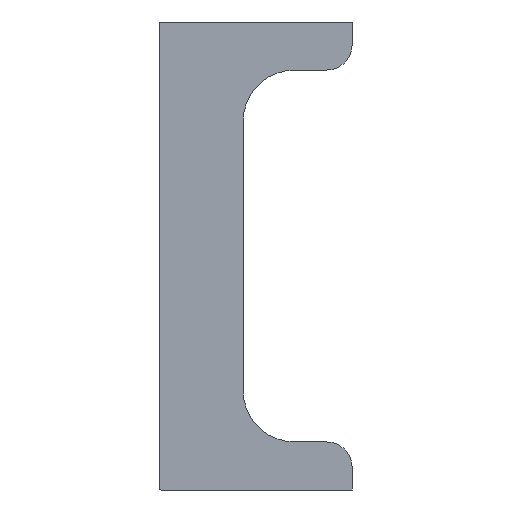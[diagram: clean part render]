
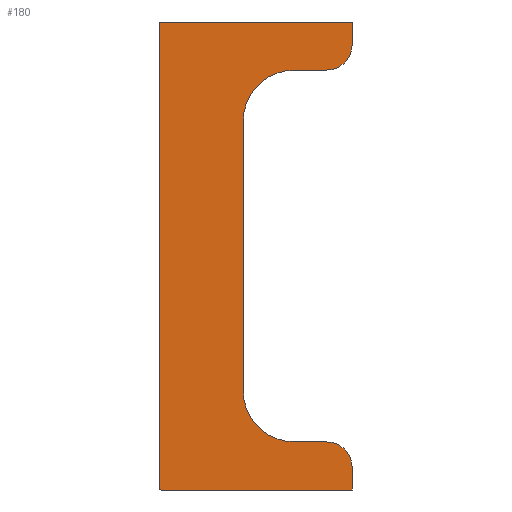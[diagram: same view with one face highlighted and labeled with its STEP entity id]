
A CAD part, left-side view. The second image highlights one B-rep face of the part: STEP entity #180.
In plain terms, the highlighted planar face has unit normal (-1, 0, 0).
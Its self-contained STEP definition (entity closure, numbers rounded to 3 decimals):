
#180 = ADVANCED_FACE( '', ( #358 ), #359, .F. );
#358 = FACE_OUTER_BOUND( '', #598, .T. );
#359 = PLANE( '', #599 );
#598 = EDGE_LOOP( '', ( #1189, #1190, #1191, #1192, #1193, #1194, #1195, #1196, #1197, #1198, #1199, #1200, #1201, #1202 ) );
#599 = AXIS2_PLACEMENT_3D( '', #1203, #1204, #1205 );
#1189 = ORIENTED_EDGE( '', *, *, #1847, .F. );
#1190 = ORIENTED_EDGE( '', *, *, #1817, .F. );
#1191 = ORIENTED_EDGE( '', *, *, #1821, .F. );
#1192 = ORIENTED_EDGE( '', *, *, #1824, .F. );
#1193 = ORIENTED_EDGE( '', *, *, #1827, .F. );
#1194 = ORIENTED_EDGE( '', *, *, #1830, .F. );
#1195 = ORIENTED_EDGE( '', *, *, #1832, .F. );
#1196 = ORIENTED_EDGE( '', *, *, #1834, .F. );
#1197 = ORIENTED_EDGE( '', *, *, #1836, .F. );
#1198 = ORIENTED_EDGE( '', *, *, #1838, .F. );
#1199 = ORIENTED_EDGE( '', *, *, #1840, .F. );
#1200 = ORIENTED_EDGE( '', *, *, #1842, .F. );
#1201 = ORIENTED_EDGE( '', *, *, #1844, .F. );
#1202 = ORIENTED_EDGE( '', *, *, #1846, .F. );
#1203 = CARTESIAN_POINT( '', ( 0., 0., 0. ) );
#1204 = DIRECTION( '', ( 1., 0., 0. ) );
#1205 = DIRECTION( '', ( 0., 0., -1. ) );
#1817 = EDGE_CURVE( '', #2215, #2217, #2218, .T. );
#1821 = EDGE_CURVE( '', #2222, #2215, #2224, .T. );
#1824 = EDGE_CURVE( '', #2227, #2222, #2229, .T. );
#1827 = EDGE_CURVE( '', #2232, #2227, #2234, .T. );
#1830 = EDGE_CURVE( '', #2236, #2232, #2238, .T. );
#1832 = EDGE_CURVE( '', #2239, #2236, #2241, .T. );
#1834 = EDGE_CURVE( '', #2242, #2239, #2244, .T. );
#1836 = EDGE_CURVE( '', #2245, #2242, #2247, .T. );
#1838 = EDGE_CURVE( '', #2248, #2245, #2250, .T. );
#1840 = EDGE_CURVE( '', #2251, #2248, #2253, .T. );
#1842 = EDGE_CURVE( '', #2254, #2251, #2256, .T. );
#1844 = EDGE_CURVE( '', #2257, #2254, #2259, .T. );
#1846 = EDGE_CURVE( '', #2260, #2257, #2262, .T. );
#1847 = EDGE_CURVE( '', #2217, #2260, #2263, .T. );
#2215 = VERTEX_POINT( '', #2847 );
#2217 = VERTEX_POINT( '', #2850 );
#2218 = LINE( '', #2851, #2852 );
#2222 = VERTEX_POINT( '', #2857 );
#2224 = CIRCLE( '', #2860, 0.2 );
#2227 = VERTEX_POINT( '', #2864 );
#2229 = LINE( '', #2867, #2868 );
#2232 = VERTEX_POINT( '', #2871 );
#2234 = CIRCLE( '', #2874, 0.2 );
#2236 = VERTEX_POINT( '', #2877 );
#2238 = LINE( '', #2880, #2881 );
#2239 = VERTEX_POINT( '', #2882 );
#2241 = LINE( '', #2885, #2886 );
#2242 = VERTEX_POINT( '', #2887 );
#2244 = CIRCLE( '', #2890, 4. );
#2245 = VERTEX_POINT( '', #2891 );
#2247 = LINE( '', #2894, #2895 );
#2248 = VERTEX_POINT( '', #2896 );
#2250 = CIRCLE( '', #2899, 8. );
#2251 = VERTEX_POINT( '', #2900 );
#2253 = LINE( '', #2903, #2904 );
#2254 = VERTEX_POINT( '', #2905 );
#2256 = CIRCLE( '', #2908, 8. );
#2257 = VERTEX_POINT( '', #2909 );
#2259 = LINE( '', #2912, #2913 );
#2260 = VERTEX_POINT( '', #2914 );
#2262 = CIRCLE( '', #2917, 4. );
#2263 = LINE( '', #2918, #2919 );
#2847 = CARTESIAN_POINT( '', ( 0., 29.8, 73. ) );
#2850 = CARTESIAN_POINT( '', ( 0., 0., 73. ) );
#2851 = CARTESIAN_POINT( '', ( 0., 29.8, 73. ) );
#2852 = VECTOR( '', #3465, 1. );
#2857 = CARTESIAN_POINT( '', ( 0., 30., 72.8 ) );
#2860 = AXIS2_PLACEMENT_3D( '', #3471, #3472, #3473 );
#2864 = CARTESIAN_POINT( '', ( 0., 30., 0.2 ) );
#2867 = CARTESIAN_POINT( '', ( 0., 30., 0.2 ) );
#2868 = VECTOR( '', #3476, 1. );
#2871 = CARTESIAN_POINT( '', ( 0., 29.8, 0. ) );
#2874 = AXIS2_PLACEMENT_3D( '', #3481, #3482, #3483 );
#2877 = CARTESIAN_POINT( '', ( 0., 0., 0. ) );
#2880 = CARTESIAN_POINT( '', ( 0., 0., 0. ) );
#2881 = VECTOR( '', #3486, 1. );
#2882 = CARTESIAN_POINT( '', ( 0., 0., 3.5 ) );
#2885 = CARTESIAN_POINT( '', ( 0., 0., 3.5 ) );
#2886 = VECTOR( '', #3488, 1. );
#2887 = CARTESIAN_POINT( '', ( 0., 4., 7.5 ) );
#2890 = AXIS2_PLACEMENT_3D( '', #3490, #3491, #3492 );
#2891 = CARTESIAN_POINT( '', ( 0., 9., 7.5 ) );
#2894 = CARTESIAN_POINT( '', ( 0., 9., 7.5 ) );
#2895 = VECTOR( '', #3494, 1. );
#2896 = CARTESIAN_POINT( '', ( 0., 17., 15.5 ) );
#2899 = AXIS2_PLACEMENT_3D( '', #3496, #3497, #3498 );
#2900 = CARTESIAN_POINT( '', ( 0., 17., 57.5 ) );
#2903 = CARTESIAN_POINT( '', ( 0., 17., 57.5 ) );
#2904 = VECTOR( '', #3500, 1. );
#2905 = CARTESIAN_POINT( '', ( 0., 9., 65.5 ) );
#2908 = AXIS2_PLACEMENT_3D( '', #3502, #3503, #3504 );
#2909 = CARTESIAN_POINT( '', ( 0., 4., 65.5 ) );
#2912 = CARTESIAN_POINT( '', ( 0., 4., 65.5 ) );
#2913 = VECTOR( '', #3506, 1. );
#2914 = CARTESIAN_POINT( '', ( 0., 0., 69.5 ) );
#2917 = AXIS2_PLACEMENT_3D( '', #3508, #3509, #3510 );
#2918 = CARTESIAN_POINT( '', ( 0., 0., 73. ) );
#2919 = VECTOR( '', #3511, 1. );
#3465 = DIRECTION( '', ( 0., -1., 0. ) );
#3471 = CARTESIAN_POINT( '', ( 0., 29.8, 72.8 ) );
#3472 = DIRECTION( '', ( 1., 0., 0. ) );
#3473 = DIRECTION( '', ( 0., 1., 0. ) );
#3476 = DIRECTION( '', ( 0., 0., 1. ) );
#3481 = CARTESIAN_POINT( '', ( 0., 29.8, 0.2 ) );
#3482 = DIRECTION( '', ( 1., 0., 0. ) );
#3483 = DIRECTION( '', ( 0., 0., -1. ) );
#3486 = DIRECTION( '', ( 0., 1., 0. ) );
#3488 = DIRECTION( '', ( 0., 0., -1. ) );
#3490 = CARTESIAN_POINT( '', ( 0., 4., 3.5 ) );
#3491 = DIRECTION( '', ( 1., 0., 0. ) );
#3492 = DIRECTION( '', ( 0., 0., 1. ) );
#3494 = DIRECTION( '', ( 0., -1., 0. ) );
#3496 = CARTESIAN_POINT( '', ( 0., 9., 15.5 ) );
#3497 = DIRECTION( '', ( -1., 0., 0. ) );
#3498 = DIRECTION( '', ( 0., 1., 0. ) );
#3500 = DIRECTION( '', ( 0., 0., -1. ) );
#3502 = CARTESIAN_POINT( '', ( 0., 9., 57.5 ) );
#3503 = DIRECTION( '', ( -1., 0., 0. ) );
#3504 = DIRECTION( '', ( 0., 0., 1. ) );
#3506 = DIRECTION( '', ( 0., 1., 0. ) );
#3508 = CARTESIAN_POINT( '', ( 0., 4., 69.5 ) );
#3509 = DIRECTION( '', ( 1., 0., 0. ) );
#3510 = DIRECTION( '', ( 0., -1., 0. ) );
#3511 = DIRECTION( '', ( 0., 0., -1. ) );
